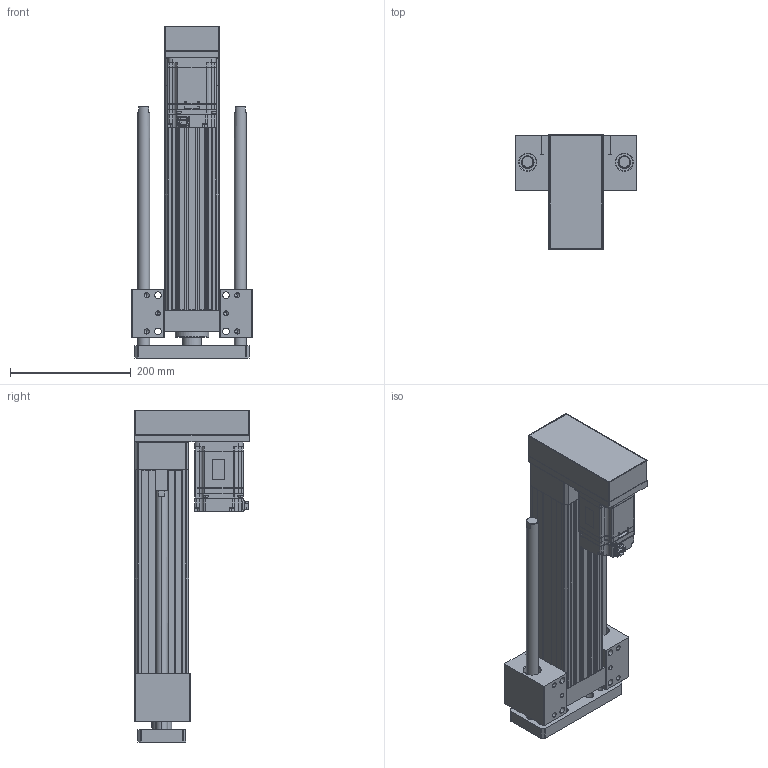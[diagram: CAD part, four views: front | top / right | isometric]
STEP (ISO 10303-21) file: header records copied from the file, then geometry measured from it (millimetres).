
FILE_DESCRIPTION (( 'STEP AP203' ), '1' );
FILE_NAME ('ANS090R-HP250-05(10)(20)-W75.STEP', '2019-03-02T09:40:40', ( 'user' ), ( '' ), 'SwSTEP 2.0', 'SolidWorks 2013', '' );
FILE_SCHEMA (( 'CONFIG_CONTROL_DESIGN' ));
Length unit declared in the file: millimetre
Products named in the file (4): ANS090R HP250 VER2; SGMJV_08A_A21; ANS090 ROD ST250-H; ANS090R-HP250-05(10)(20)-W75
Assembly tree (3 placements, depth 2):
  ANS090R-HP250-05(10)(20)-W75
    ANS090R HP250 VER2
    SGMJV_08A_A21
    ANS090 ROD ST250-H
Bounding box: 200 x 190 x 550 mm (x, y, z)
Volume: 4101713.7 mm3; surface area: 730652.7 mm2
Topology: 3 solids, 3 shells, 1228 faces, 3234 edges, 2090 vertices
Faces by surface type: plane 688, cylinder 434, cone 94, sphere 8, bspline 4
Entity records: 38470 total; most frequent: CARTESIAN_POINT 7180, DIRECTION 6468, ORIENTED_EDGE 6420, EDGE_CURVE 3210, VECTOR 2168, LINE 2168, AXIS2_PLACEMENT_3D 2150, VERTEX_POINT 2090
